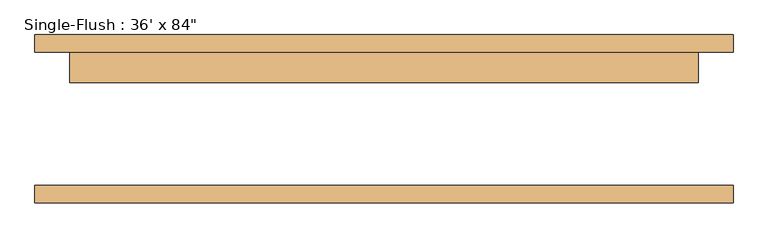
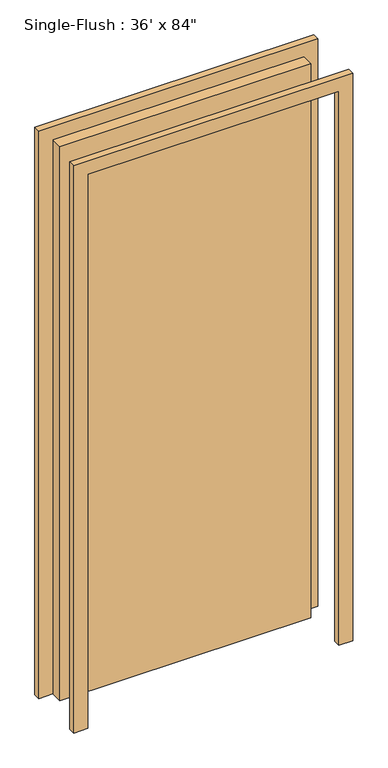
"""IFC4 building model written with IfcOpenShell, lengths in millimetres: door geometry."""

from ifc_helpers import new_model, si_unit, frame, origin, origin_with_axes, place, context, project, spatial, polyline, outline, extrude, source, transform, mapped, element, save


def door_053de108(model_context):
    return source(origin(), model_context, "Body", "SweptSolid", [
        extrude(outline(polyline([(2184.4, -508.0), (0.0, -508.0), (0.0, -457.2), (2133.6, -457.2), (2133.6, 457.2), (0.0, 457.2), (0.0, 508.0), (2184.4, 508.0), (2184.4, -508.0)])), frame((0.0, 97.0, 0.0), z_axis=(0.0, 1.0, 0.0), x_axis=(0.0, 0.0, 1.0)), (0.0, 0.0, 1.0), 25.4),
        extrude(outline(polyline([(2184.4, 508.0), (2184.4, -508.0), (0.0, -508.0), (0.0, -457.2), (2133.6, -457.2), (2133.6, 457.2), (0.0, 457.2), (0.0, 508.0), (2184.4, 508.0)])), frame((0.0, -122.4, 0.0), z_axis=(0.0, 1.0, 0.0), x_axis=(0.0, 0.0, 1.0)), (0.0, 0.0, 1.0), 25.4),
        extrude(outline(polyline([(457.2, 52.55), (-457.2, 52.55), (-457.2, 97.0), (457.2, 97.0), (457.2, 52.55)])), origin_with_axes(), (0.0, 0.0, 1.0), 2133.6),
    ])


if __name__ == "__main__":
    model = new_model("IFC4")
    model_context = context("Model", 3, world=origin())
    ifc_project = project(units=[si_unit("LENGTHUNIT", "METRE", prefix="MILLI")], contexts=[model_context])
    site = spatial("IfcSite", under=ifc_project)
    building = spatial("IfcBuilding", under=site)
    placement = place(None, origin())
    door_shape = door_053de108(model_context)
    element("IfcDoor", 1, ObjectType="Single-Flush : 36' x 84\"", at=placement, inside=building, context=model_context, shape_type="MappedRepresentation", body=[
        mapped(door_shape, transform((0.0, 0.0, 0.0), x_axis=(1.0, 0.0, 0.0), y_axis=(0.0, 1.0, 0.0), z_axis=(0.0, 0.0, 1.0))),
    ])
    save(model, "model.ifc")
